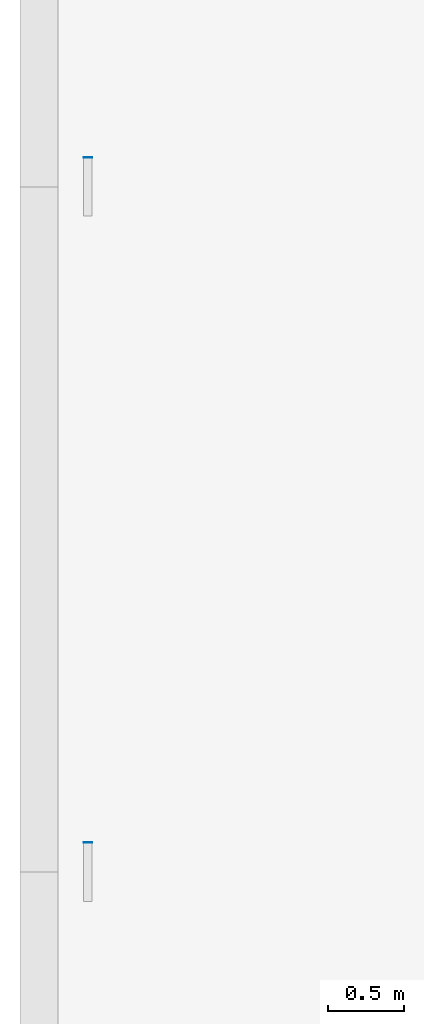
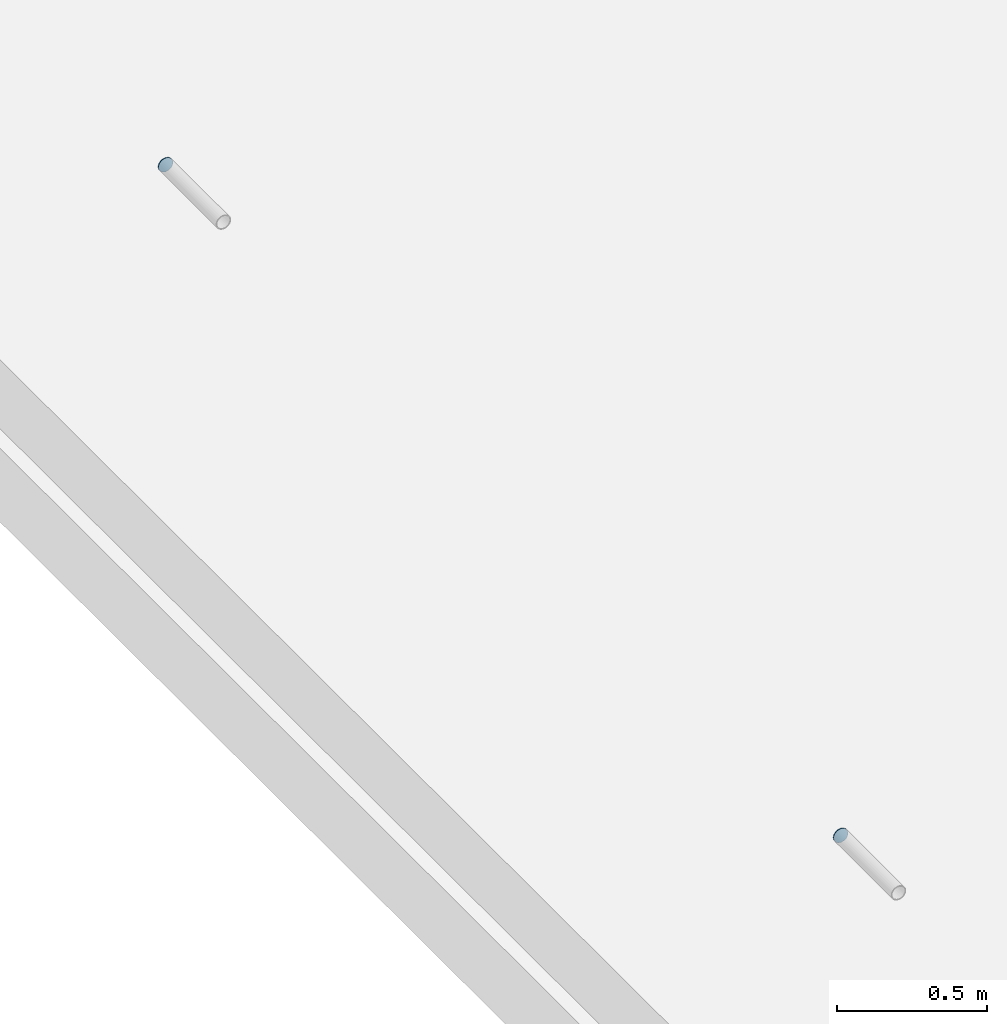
# One storey, part 38 of 230: 2 beams.
"""IFC4X3_ADD2 building model written with IfcOpenShell, lengths in millimetres."""

from ifc_helpers import new_model, si_unit, direction, frame, origin_with_axes, place, context, subcontext, project, spatial, indexed_curve, outline, extrude, material, element, save


model = new_model("IFC4X3_ADD2")

# Units and contexts
model_context = context("Model", 3, precision=1e-05, world=origin_with_axes(), true_north=direction((0.0, 1.0)))
body_context = subcontext(model_context, "Body", "Model", "MODEL_VIEW")
ifc_project = project(units=[si_unit("LENGTHUNIT", "METRE", prefix="MILLI"), si_unit("AREAUNIT", "SQUARE_METRE"), si_unit("VOLUMEUNIT", "CUBIC_METRE"), si_unit("PLANEANGLEUNIT", "RADIAN"), si_unit("TIMEUNIT", "SECOND"), si_unit("MASSUNIT", "GRAM")], contexts=[model_context])

# Site, building, storey
site_placement = place(None, origin_with_axes())
site = spatial("IfcSite", under=ifc_project, at=site_placement, Name="Site", CompositionType="ELEMENT")
building_placement = place(site_placement, origin_with_axes())
building = spatial("IfcBuilding", under=site, at=building_placement, Name="IFC Building Story")
storey_placement = place(building_placement, origin_with_axes())
storey = spatial("IfcBuildingStorey", under=building, at=storey_placement, Name="ETAGE 00 (0)", Elevation=0.0)

# Beams
ifc_material = material(Name="STEEL/Accessory 22919")
for number, where, z_axis, x_axis, name in (
    (1, (4961.18977737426, 4695.00020217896, 1190.0), (0.0, -1.0, 0.0), (-0.5555702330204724, 0.0, 0.8314696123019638), "TA4"),
    (2, (4961.189777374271, 9194.9997253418, 1190.0), (0.0, -1.0, 0.0), (-0.5555702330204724, 0.0, 0.8314696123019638), "TA4"),
):
    element("IfcBeam", number, at=place(storey_placement, frame(where, z_axis=z_axis, x_axis=x_axis)), inside=storey, material=ifc_material, Name=name, ObjectType="D56", context=body_context, shape_type="SweptSolid", body=[
        extrude(outline(indexed_curve([(23.28114914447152, 15.55596652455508), (27.46198785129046, 5.462529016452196), (27.46198785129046, -5.462529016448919), (23.28114914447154, -15.55596652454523), (15.55596652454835, -23.28114914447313), (5.462529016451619, -27.46198785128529), (-5.462529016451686, -27.46198785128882), (-15.55596652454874, -23.28114914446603), (-23.2811491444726, -15.55596652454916), (-27.46198785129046, -5.462529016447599), (-27.46198785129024, 5.462529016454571), (-23.28114914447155, 15.55596652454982), (-15.55596652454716, 23.28114914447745), (-5.462529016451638, 27.46198785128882), (5.462529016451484, 27.46198785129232), (15.55596652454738, 23.28114914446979), (23.28114914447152, 15.55596652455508)])), origin_with_axes(), (0.0, 0.0, 1.0), 3.0),
    ])

save(model, "model.ifc")
